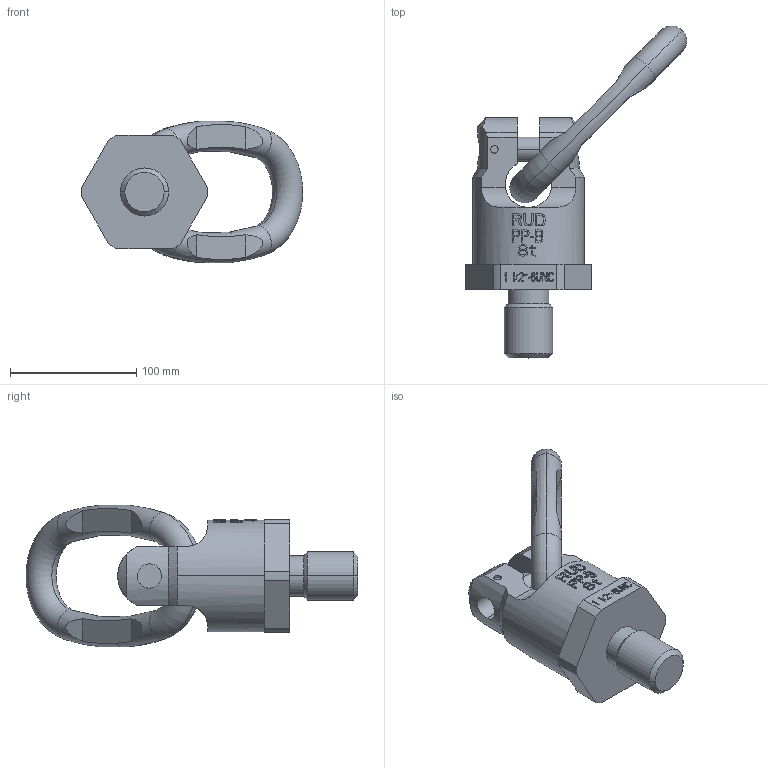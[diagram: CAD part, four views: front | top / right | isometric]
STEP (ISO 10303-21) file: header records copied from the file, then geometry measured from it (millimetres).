
FILE_DESCRIPTION((''),'2;1');
FILE_NAME('001-M31445-P4-45_ASM','2008-10-29T',('Azubitbm'),('RAND'),'PRO/ENGINEER BY PARAMETRIC TECHNOLOGY CORPORATION, 2005030','PRO/ENGINEER BY PARAMETRIC TECHNOLOGY CORPORATION, 2005030','');
FILE_SCHEMA(('CONFIG_CONTROL_DESIGN'));
Length unit declared in the file: millimetre
Products named in the file (4): 001-M31445-002; 001-M31445-007; 001-M31290-005; 001-M31445-P4-45_ASM
Assembly tree (3 placements, depth 2):
  001-M31445-P4-45_ASM
    001-M31445-002
    001-M31445-007
    001-M31290-005
Bounding box: 175.06 x 262.58 x 112.27 mm (x, y, z)
Volume: 818449.6 mm3; surface area: 102953.1 mm2
Topology: 3 solids, 3 shells, 562 faces, 1544 edges, 1024 vertices
Faces by surface type: plane 498, cylinder 48, cone 8, torus 8
Entity records: 18232 total; most frequent: CARTESIAN_POINT 4387, ORIENTED_EDGE 3088, DIRECTION 2470, EDGE_CURVE 1544, VERTEX_POINT 1024, VECTOR 1016, LINE 1016, AXIS2_PLACEMENT_3D 727
